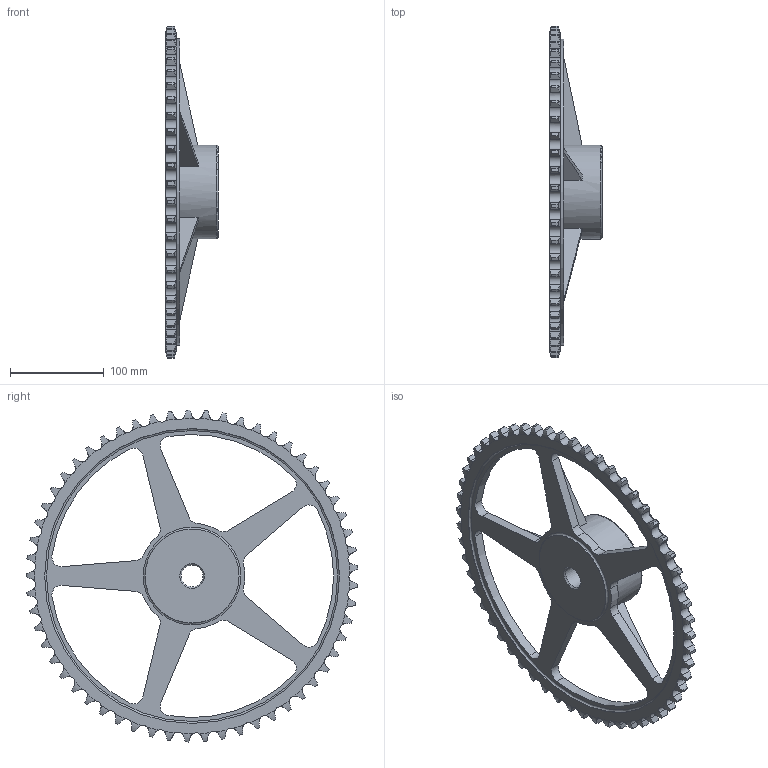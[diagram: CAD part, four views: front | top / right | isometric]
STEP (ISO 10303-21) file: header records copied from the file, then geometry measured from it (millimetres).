
FILE_DESCRIPTION(/* description */ (''),/* implementation_level */ '2;1');
FILE_NAME(/* name */ '\\stg01\varie\PROGETTO SCUOLA\12\12119057.stp',/* time_stamp */ '2018-06-26T13:45:05+02:00',/* author */ ('stagistacad'),/* organization */ (''),/* preprocessor_version */ 'ST-DEVELOPER v15.6',/* originating_system */ 'Autodesk Inventor 2015',/* authorisation */ '');
FILE_SCHEMA (('AUTOMOTIVE_DESIGN { 1 0 10303 214 3 1 1 }'));
Length unit declared in the file: millimetre
Products named in the file (1): 12119057
Bounding box: 56 x 353.14 x 353.24 mm (x, y, z)
Volume: 840389.6 mm3; surface area: 157461.3 mm2
Topology: 1 solids, 1 shells, 430 faces, 1267 edges, 843 vertices
Faces by surface type: cylinder 269, torus 123, plane 31, cone 7
Full cylindrical faces by diameter (mm): 23 x1, 100 x2, 313.657 x2, 325.7 x1
Entity records: 15884 total; most frequent: CARTESIAN_POINT 4969, ORIENTED_EDGE 2504, DIRECTION 2076, EDGE_CURVE 1252, AXIS2_PLACEMENT_3D 879, VERTEX_POINT 840, B_SPLINE_CURVE_WITH_KNOTS 476, EDGE_LOOP 458
